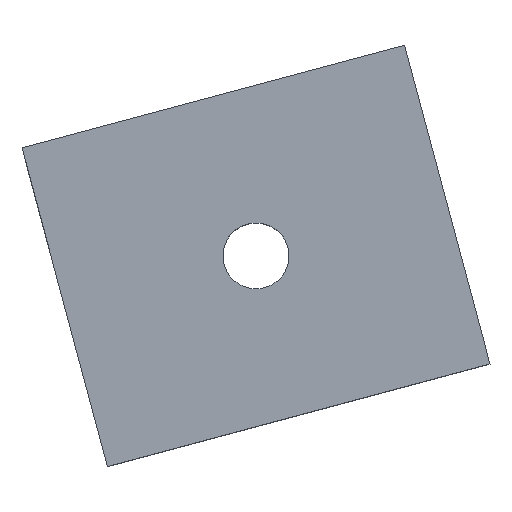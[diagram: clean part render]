
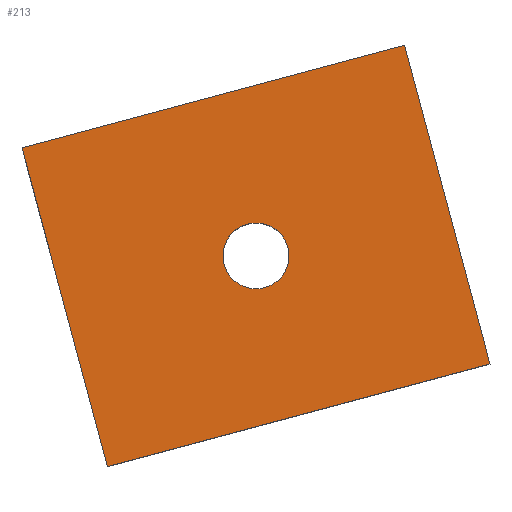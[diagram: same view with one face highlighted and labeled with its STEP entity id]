
A CAD part, top view. The second image highlights one B-rep face of the part: STEP entity #213.
In plain terms, the highlighted planar face has unit normal (0, 0, 1).
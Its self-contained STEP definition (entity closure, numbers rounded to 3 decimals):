
#24 = VERTEX_POINT('',#25);
#25 = CARTESIAN_POINT('',(0.,0.,4.));
#32 = PLANE('',#33);
#33 = AXIS2_PLACEMENT_3D('',#34,#35,#36);
#34 = CARTESIAN_POINT('',(0.,0.,0.));
#35 = DIRECTION('',(0.966,0.259,0.));
#36 = DIRECTION('',(0.,0.,1.));
#44 = PLANE('',#45);
#45 = AXIS2_PLACEMENT_3D('',#46,#47,#48);
#46 = CARTESIAN_POINT('',(0.,0.,0.));
#47 = DIRECTION('',(-0.259,0.966,0.));
#48 = DIRECTION('',(0.,0.,1.));
#85 = VERTEX_POINT('',#86);
#86 = CARTESIAN_POINT('',(-2.588,9.659,4.));
#100 = PLANE('',#101);
#101 = AXIS2_PLACEMENT_3D('',#102,#103,#104);
#102 = CARTESIAN_POINT('',(-2.588,9.659,0.));
#103 = DIRECTION('',(-0.259,0.966,0.));
#104 = DIRECTION('',(0.,0.,1.));
#112 = EDGE_CURVE('',#24,#85,#113,.T.);
#113 = SURFACE_CURVE('',#114,(#118,#125),.PCURVE_S1.);
#114 = LINE('',#115,#116);
#115 = CARTESIAN_POINT('',(0.,0.,4.));
#116 = VECTOR('',#117,1.);
#117 = DIRECTION('',(-0.259,0.966,0.));
#118 = PCURVE('',#32,#119);
#119 = DEFINITIONAL_REPRESENTATION('',(#120),#124);
#120 = LINE('',#121,#122);
#121 = CARTESIAN_POINT('',(4.,0.));
#122 = VECTOR('',#123,1.);
#123 = DIRECTION('',(0.,-1.));
#124 = ( GEOMETRIC_REPRESENTATION_CONTEXT(2) 
PARAMETRIC_REPRESENTATION_CONTEXT() REPRESENTATION_CONTEXT('2D SPACE',''
  ) );
#125 = PCURVE('',#126,#131);
#126 = PLANE('',#127);
#127 = AXIS2_PLACEMENT_3D('',#128,#129,#130);
#128 = CARTESIAN_POINT('',(0.,0.,4.));
#129 = DIRECTION('',(0.,0.,1.));
#130 = DIRECTION('',(0.966,0.259,0.));
#131 = DEFINITIONAL_REPRESENTATION('',(#132),#136);
#132 = LINE('',#133,#134);
#133 = CARTESIAN_POINT('',(0.,0.));
#134 = VECTOR('',#135,1.);
#135 = DIRECTION('',(0.,1.));
#136 = ( GEOMETRIC_REPRESENTATION_CONTEXT(2) 
PARAMETRIC_REPRESENTATION_CONTEXT() REPRESENTATION_CONTEXT('2D SPACE',''
  ) );
#165 = EDGE_CURVE('',#24,#166,#168,.T.);
#166 = VERTEX_POINT('',#167);
#167 = CARTESIAN_POINT('',(11.591,3.106,4.));
#168 = SURFACE_CURVE('',#169,(#173,#180),.PCURVE_S1.);
#169 = LINE('',#170,#171);
#170 = CARTESIAN_POINT('',(0.,0.,4.));
#171 = VECTOR('',#172,1.);
#172 = DIRECTION('',(0.966,0.259,0.));
#173 = PCURVE('',#44,#174);
#174 = DEFINITIONAL_REPRESENTATION('',(#175),#179);
#175 = LINE('',#176,#177);
#176 = CARTESIAN_POINT('',(4.,0.));
#177 = VECTOR('',#178,1.);
#178 = DIRECTION('',(0.,1.));
#179 = ( GEOMETRIC_REPRESENTATION_CONTEXT(2) 
PARAMETRIC_REPRESENTATION_CONTEXT() REPRESENTATION_CONTEXT('2D SPACE',''
  ) );
#180 = PCURVE('',#126,#181);
#181 = DEFINITIONAL_REPRESENTATION('',(#182),#186);
#182 = LINE('',#183,#184);
#183 = CARTESIAN_POINT('',(0.,0.));
#184 = VECTOR('',#185,1.);
#185 = DIRECTION('',(1.,0.));
#186 = ( GEOMETRIC_REPRESENTATION_CONTEXT(2) 
PARAMETRIC_REPRESENTATION_CONTEXT() REPRESENTATION_CONTEXT('2D SPACE',''
  ) );
#202 = PLANE('',#203);
#203 = AXIS2_PLACEMENT_3D('',#204,#205,#206);
#204 = CARTESIAN_POINT('',(11.591,3.106,0.));
#205 = DIRECTION('',(0.966,0.259,0.));
#206 = DIRECTION('',(0.,0.,1.));
#213 = ADVANCED_FACE('',(#214,#262),#126,.T.);
#214 = FACE_BOUND('',#215,.T.);
#215 = EDGE_LOOP('',(#216,#217,#218,#241));
#216 = ORIENTED_EDGE('',*,*,#112,.F.);
#217 = ORIENTED_EDGE('',*,*,#165,.T.);
#218 = ORIENTED_EDGE('',*,*,#219,.T.);
#219 = EDGE_CURVE('',#166,#220,#222,.T.);
#220 = VERTEX_POINT('',#221);
#221 = CARTESIAN_POINT('',(9.003,12.765,4.));
#222 = SURFACE_CURVE('',#223,(#227,#234),.PCURVE_S1.);
#223 = LINE('',#224,#225);
#224 = CARTESIAN_POINT('',(11.591,3.106,4.));
#225 = VECTOR('',#226,1.);
#226 = DIRECTION('',(-0.259,0.966,0.));
#227 = PCURVE('',#126,#228);
#228 = DEFINITIONAL_REPRESENTATION('',(#229),#233);
#229 = LINE('',#230,#231);
#230 = CARTESIAN_POINT('',(12.,0.));
#231 = VECTOR('',#232,1.);
#232 = DIRECTION('',(0.,1.));
#233 = ( GEOMETRIC_REPRESENTATION_CONTEXT(2) 
PARAMETRIC_REPRESENTATION_CONTEXT() REPRESENTATION_CONTEXT('2D SPACE',''
  ) );
#234 = PCURVE('',#202,#235);
#235 = DEFINITIONAL_REPRESENTATION('',(#236),#240);
#236 = LINE('',#237,#238);
#237 = CARTESIAN_POINT('',(4.,0.));
#238 = VECTOR('',#239,1.);
#239 = DIRECTION('',(0.,-1.));
#240 = ( GEOMETRIC_REPRESENTATION_CONTEXT(2) 
PARAMETRIC_REPRESENTATION_CONTEXT() REPRESENTATION_CONTEXT('2D SPACE',''
  ) );
#241 = ORIENTED_EDGE('',*,*,#242,.F.);
#242 = EDGE_CURVE('',#85,#220,#243,.T.);
#243 = SURFACE_CURVE('',#244,(#248,#255),.PCURVE_S1.);
#244 = LINE('',#245,#246);
#245 = CARTESIAN_POINT('',(-2.588,9.659,4.));
#246 = VECTOR('',#247,1.);
#247 = DIRECTION('',(0.966,0.259,0.));
#248 = PCURVE('',#126,#249);
#249 = DEFINITIONAL_REPRESENTATION('',(#250),#254);
#250 = LINE('',#251,#252);
#251 = CARTESIAN_POINT('',(0.,10.));
#252 = VECTOR('',#253,1.);
#253 = DIRECTION('',(1.,0.));
#254 = ( GEOMETRIC_REPRESENTATION_CONTEXT(2) 
PARAMETRIC_REPRESENTATION_CONTEXT() REPRESENTATION_CONTEXT('2D SPACE',''
  ) );
#255 = PCURVE('',#100,#256);
#256 = DEFINITIONAL_REPRESENTATION('',(#257),#261);
#257 = LINE('',#258,#259);
#258 = CARTESIAN_POINT('',(4.,0.));
#259 = VECTOR('',#260,1.);
#260 = DIRECTION('',(0.,1.));
#261 = ( GEOMETRIC_REPRESENTATION_CONTEXT(2) 
PARAMETRIC_REPRESENTATION_CONTEXT() REPRESENTATION_CONTEXT('2D SPACE',''
  ) );
#262 = FACE_BOUND('',#263,.T.);
#263 = EDGE_LOOP('',(#264));
#264 = ORIENTED_EDGE('',*,*,#265,.F.);
#265 = EDGE_CURVE('',#266,#266,#268,.T.);
#266 = VERTEX_POINT('',#267);
#267 = CARTESIAN_POINT('',(5.467,6.641,4.));
#268 = SURFACE_CURVE('',#269,(#274,#281),.PCURVE_S1.);
#269 = CIRCLE('',#270,1.);
#270 = AXIS2_PLACEMENT_3D('',#271,#272,#273);
#271 = CARTESIAN_POINT('',(4.501,6.383,4.));
#272 = DIRECTION('',(0.,-0.,1.));
#273 = DIRECTION('',(0.966,0.259,0.));
#274 = PCURVE('',#126,#275);
#275 = DEFINITIONAL_REPRESENTATION('',(#276),#280);
#276 = CIRCLE('',#277,1.);
#277 = AXIS2_PLACEMENT_2D('',#278,#279);
#278 = CARTESIAN_POINT('',(6.,5.));
#279 = DIRECTION('',(1.,0.));
#280 = ( GEOMETRIC_REPRESENTATION_CONTEXT(2) 
PARAMETRIC_REPRESENTATION_CONTEXT() REPRESENTATION_CONTEXT('2D SPACE',''
  ) );
#281 = PCURVE('',#282,#287);
#282 = CYLINDRICAL_SURFACE('',#283,1.);
#283 = AXIS2_PLACEMENT_3D('',#284,#285,#286);
#284 = CARTESIAN_POINT('',(4.501,6.383,-2.));
#285 = DIRECTION('',(0.,0.,1.));
#286 = DIRECTION('',(0.966,0.259,0.));
#287 = DEFINITIONAL_REPRESENTATION('',(#288),#292);
#288 = LINE('',#289,#290);
#289 = CARTESIAN_POINT('',(0.,6.));
#290 = VECTOR('',#291,1.);
#291 = DIRECTION('',(1.,0.));
#292 = ( GEOMETRIC_REPRESENTATION_CONTEXT(2) 
PARAMETRIC_REPRESENTATION_CONTEXT() REPRESENTATION_CONTEXT('2D SPACE',''
  ) );
